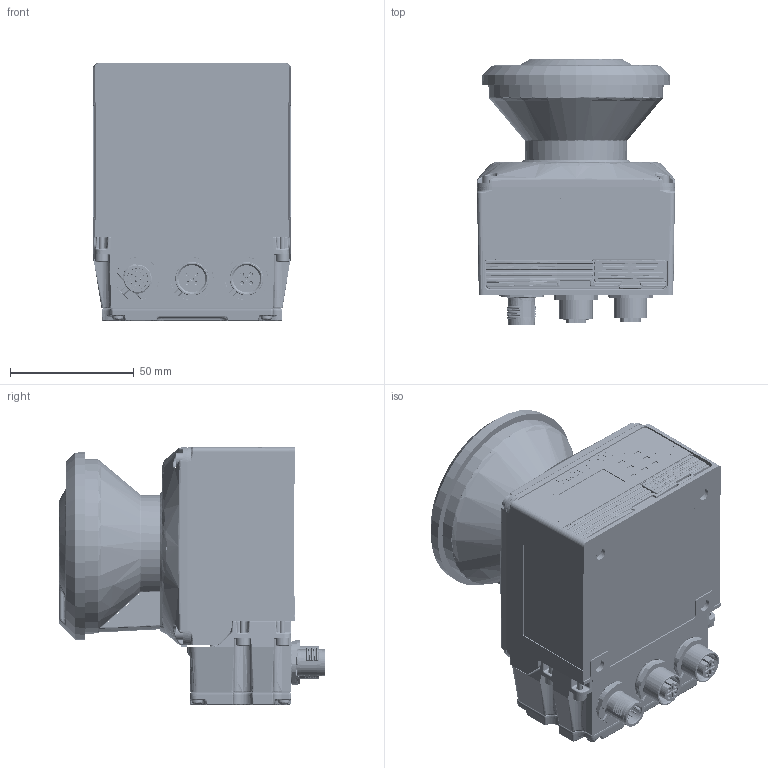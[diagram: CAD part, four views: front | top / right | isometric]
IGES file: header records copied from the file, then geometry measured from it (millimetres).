
Start section: SolidWorks IGES file using analytic representation for surfaces
Global section: file name: 4HC:\Users\hokuyo\Desktop\UAM-05LECA ﾃﾞｰﾀ\UAM-05LECA(ｺﾈｸﾀ下面).IGS; native system: SolidWorks 2022; preprocessor: SolidWorks 2022; author: hokuyo; date: 250724.144016; units: millimetre
Bounding box: 80 x 107.02 x 104 mm (x, y, z)
Surface area: 107093.2 mm2 (no closed solid volume)
Topology: 0 solids, 0 shells, 3632 faces, 32714 edges, 32530 vertices
Faces by surface type: bspline 2347, revolution 1285
